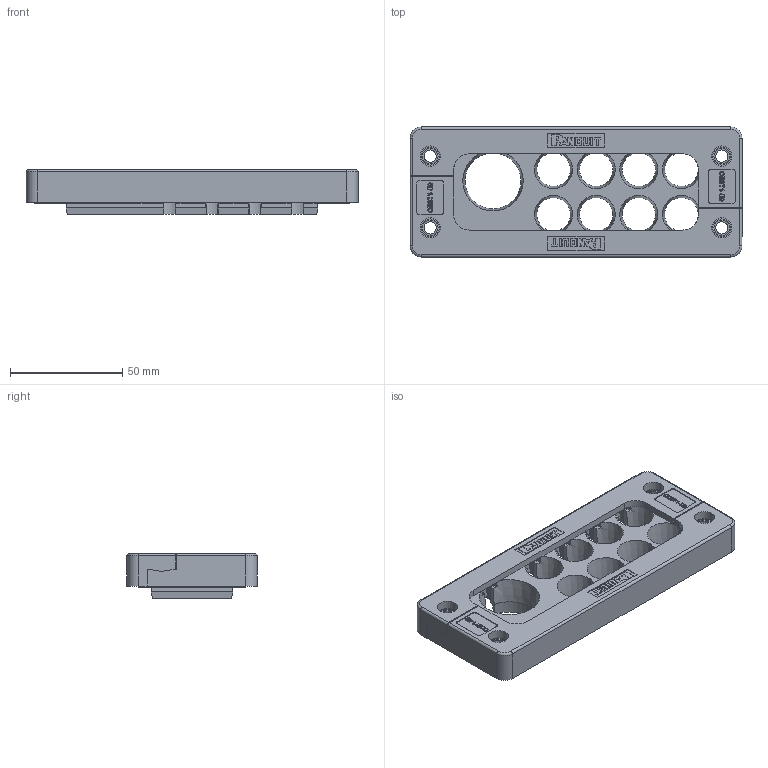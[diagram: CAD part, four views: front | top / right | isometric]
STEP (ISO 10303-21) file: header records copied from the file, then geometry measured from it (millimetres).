
FILE_DESCRIPTION(/* description */ (''),/* implementation_level */ '2;1');
FILE_NAME(/* name */ 'H:\SapWorkDir\Inventor\MP1\ConvertTempPath\87_11_121455_00_A_220620_KDL-C 24-9 ZSB.stp',/* time_stamp */ '2022-06-20T08:59:14+02:00',/* author */ ('BAUER'),/* organization */ (''),/* preprocessor_version */ 'ST-DEVELOPER v16.13',/* originating_system */ 'Autodesk Inventor 2018',/* authorisation */ '');
FILE_SCHEMA (('AUTOMOTIVE_DESIGN { 1 0 10303 214 3 1 1 }'));
Length unit declared in the file: millimetre
Products named in the file (3): 121455; 120123_Tüllenblock_2_6; 121402
Assembly tree (3 placements, depth 2):
  121455
    120123_Tüllenblock_2_6
    121402  x2
Bounding box: 148 x 58 x 20 mm (x, y, z)
Volume: 88840.5 mm3; surface area: 47069.6 mm2
Topology: 3 solids, 3 shells, 1068 faces, 2900 edges, 1918 vertices
Faces by surface type: plane 711, cylinder 178, bspline 147, torus 18, cone 14
Full cylindrical faces by diameter (mm): 5 x4, 5.5 x10, 6 x2, 7 x4, 8 x4, 9 x4
Entity records: 24773 total; most frequent: CARTESIAN_POINT 5648, ORIENTED_EDGE 4076, DIRECTION 3540, EDGE_CURVE 2038, LINE 1476, VECTOR 1476, VERTEX_POINT 1353, AXIS2_PLACEMENT_3D 1032
